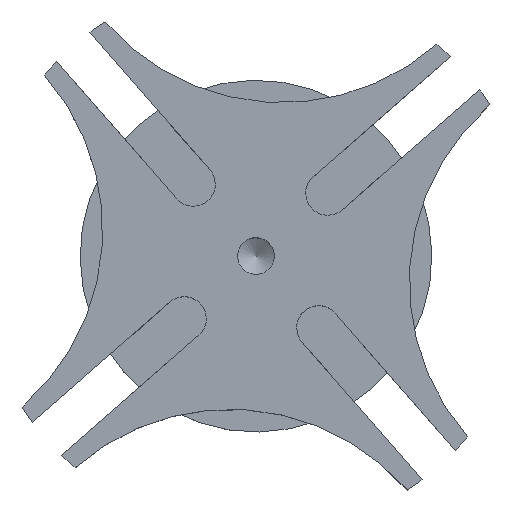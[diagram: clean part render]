
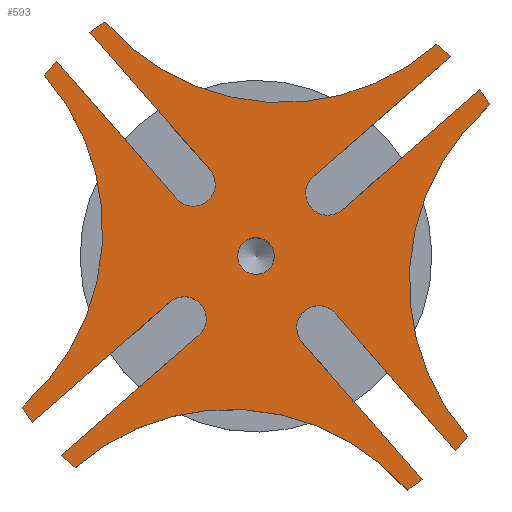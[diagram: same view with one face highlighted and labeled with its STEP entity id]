
A CAD part, top view. The second image highlights one B-rep face of the part: STEP entity #593.
In plain terms, the highlighted planar face has unit normal (0, 0, 1).
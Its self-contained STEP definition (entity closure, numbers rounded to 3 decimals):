
#35=CARTESIAN_POINT('',(20.807,-15.962,38.5));
#36=VERTEX_POINT('',#35);
#37=CARTESIAN_POINT('',(-1.841,-14.447,38.5));
#38=VERTEX_POINT('',#37);
#39=CARTESIAN_POINT('',(8.73,-26.457,38.5));
#40=DIRECTION('',(0.755,0.656,0.));
#41=DIRECTION('',(0.,0.,1.));
#42=AXIS2_PLACEMENT_3D('',#39,#41,#40);
#43=CIRCLE('',#42,16.);
#44=EDGE_CURVE('',#36,#38,#43,.T.);
#77=CARTESIAN_POINT('',(-5.462,-10.307,38.5));
#78=VERTEX_POINT('',#77);
#79=CARTESIAN_POINT('',(-3.947,12.341,38.5));
#80=VERTEX_POINT('',#79);
#81=CARTESIAN_POINT('',(-15.957,1.77,38.5));
#82=DIRECTION('',(0.656,-0.755,0.));
#83=DIRECTION('',(0.,0.,1.));
#84=AXIS2_PLACEMENT_3D('',#81,#83,#82);
#85=CIRCLE('',#84,16.);
#86=EDGE_CURVE('',#78,#80,#85,.T.);
#119=CARTESIAN_POINT('',(0.193,15.962,38.5));
#120=VERTEX_POINT('',#119);
#121=CARTESIAN_POINT('',(22.841,14.447,38.5));
#122=VERTEX_POINT('',#121);
#123=CARTESIAN_POINT('',(12.27,26.457,38.5));
#124=DIRECTION('',(-0.755,-0.656,0.));
#125=DIRECTION('',(0.,0.,1.));
#126=AXIS2_PLACEMENT_3D('',#123,#125,#124);
#127=CIRCLE('',#126,16.);
#128=EDGE_CURVE('',#120,#122,#127,.T.);
#161=CARTESIAN_POINT('',(26.462,10.307,38.5));
#162=VERTEX_POINT('',#161);
#163=CARTESIAN_POINT('',(24.947,-12.341,38.5));
#164=VERTEX_POINT('',#163);
#165=CARTESIAN_POINT('',(36.957,-1.77,38.5));
#166=DIRECTION('',(-0.656,0.755,0.));
#167=DIRECTION('',(0.,0.,1.));
#168=AXIS2_PLACEMENT_3D('',#165,#167,#166);
#169=CIRCLE('',#168,16.);
#170=EDGE_CURVE('',#162,#164,#169,.T.);
#212=CARTESIAN_POINT('',(21.84,-15.245,38.5));
#213=VERTEX_POINT('',#212);
#220=CARTESIAN_POINT('',(10.5,0.,38.5));
#221=DIRECTION('',(0.597,-0.802,0.));
#222=DIRECTION('',(0.,0.,-1.));
#223=AXIS2_PLACEMENT_3D('',#220,#222,#221);
#224=CIRCLE('',#223,19.);
#225=EDGE_CURVE('',#213,#36,#224,.T.);
#236=CARTESIAN_POINT('',(24.099,-13.27,38.5));
#237=VERTEX_POINT('',#236);
#238=CARTESIAN_POINT('',(10.5,0.,38.5));
#239=DIRECTION('',(0.76,-0.65,0.));
#240=DIRECTION('',(0.,0.,-1.));
#241=AXIS2_PLACEMENT_3D('',#238,#240,#239);
#242=CIRCLE('',#241,19.);
#243=EDGE_CURVE('',#164,#237,#242,.T.);
#278=CARTESIAN_POINT('',(-4.745,-11.34,38.5));
#279=VERTEX_POINT('',#278);
#286=CARTESIAN_POINT('',(10.5,0.,38.5));
#287=DIRECTION('',(-0.802,-0.597,0.));
#288=DIRECTION('',(0.,0.,-1.));
#289=AXIS2_PLACEMENT_3D('',#286,#288,#287);
#290=CIRCLE('',#289,19.);
#291=EDGE_CURVE('',#279,#78,#290,.T.);
#302=CARTESIAN_POINT('',(-2.77,-13.599,38.5));
#303=VERTEX_POINT('',#302);
#304=CARTESIAN_POINT('',(10.5,0.,38.5));
#305=DIRECTION('',(-0.65,-0.76,0.));
#306=DIRECTION('',(0.,0.,-1.));
#307=AXIS2_PLACEMENT_3D('',#304,#306,#305);
#308=CIRCLE('',#307,19.);
#309=EDGE_CURVE('',#38,#303,#308,.T.);
#344=CARTESIAN_POINT('',(-0.84,15.245,38.5));
#345=VERTEX_POINT('',#344);
#352=CARTESIAN_POINT('',(10.5,0.,38.5));
#353=DIRECTION('',(-0.597,0.802,0.));
#354=DIRECTION('',(0.,0.,-1.));
#355=AXIS2_PLACEMENT_3D('',#352,#354,#353);
#356=CIRCLE('',#355,19.);
#357=EDGE_CURVE('',#345,#120,#356,.T.);
#368=CARTESIAN_POINT('',(-3.099,13.27,38.5));
#369=VERTEX_POINT('',#368);
#370=CARTESIAN_POINT('',(10.5,0.,38.5));
#371=DIRECTION('',(-0.76,0.65,0.));
#372=DIRECTION('',(0.,0.,-1.));
#373=AXIS2_PLACEMENT_3D('',#370,#372,#371);
#374=CIRCLE('',#373,19.);
#375=EDGE_CURVE('',#80,#369,#374,.T.);
#410=CARTESIAN_POINT('',(25.745,11.34,38.5));
#411=VERTEX_POINT('',#410);
#418=CARTESIAN_POINT('',(10.5,0.,38.5));
#419=DIRECTION('',(0.802,0.597,0.));
#420=DIRECTION('',(0.,0.,-1.));
#421=AXIS2_PLACEMENT_3D('',#418,#420,#419);
#422=CIRCLE('',#421,19.);
#423=EDGE_CURVE('',#411,#162,#422,.T.);
#434=CARTESIAN_POINT('',(23.77,13.599,38.5));
#435=VERTEX_POINT('',#434);
#436=CARTESIAN_POINT('',(10.5,0.,38.5));
#437=DIRECTION('',(0.65,0.76,0.));
#438=DIRECTION('',(0.,0.,-1.));
#439=AXIS2_PLACEMENT_3D('',#436,#438,#437);
#440=CIRCLE('',#439,19.);
#441=EDGE_CURVE('',#122,#435,#440,.T.);
#462=CARTESIAN_POINT('',(10.5,0.,38.5));
#463=DIRECTION('',(0.658,-0.753,0.));
#464=DIRECTION('',(-0.,0.,1.));
#465=AXIS2_PLACEMENT_3D('',#462,#464,#463);
#466=PLANE('',#465);
#467=CARTESIAN_POINT('',(4.62,-3.15,38.5));
#468=VERTEX_POINT('',#467);
#469=CARTESIAN_POINT('',(6.595,-5.408,38.5));
#470=VERTEX_POINT('',#469);
#471=CARTESIAN_POINT('',(5.607,-4.279,38.5));
#472=DIRECTION('',(-0.658,0.753,0.));
#473=DIRECTION('',(0.,-0.,-1.));
#474=AXIS2_PLACEMENT_3D('',#471,#473,#472);
#475=CIRCLE('',#474,1.5);
#476=EDGE_CURVE('',#468,#470,#475,.T.);
#477=ORIENTED_EDGE('E41',*,*,#476,.T.);
#478=CARTESIAN_POINT('',(6.595,-5.408,38.5));
#479=DIRECTION('',(-0.753,-0.658,0.));
#480=VECTOR('',#479,12.441);
#481=LINE('',#478,#480);
#482=EDGE_CURVE('',#470,#303,#481,.T.);
#483=ORIENTED_EDGE('E42',*,*,#482,.T.);
#484=ORIENTED_EDGE('E42',*,*,#309,.F.);
#485=ORIENTED_EDGE('E42',*,*,#44,.F.);
#486=ORIENTED_EDGE('E42',*,*,#225,.F.);
#487=CARTESIAN_POINT('',(13.65,-5.88,38.5));
#488=VERTEX_POINT('',#487);
#489=CARTESIAN_POINT('',(21.84,-15.245,38.5));
#490=DIRECTION('',(-0.658,0.753,0.));
#491=VECTOR('',#490,12.441);
#492=LINE('',#489,#491);
#493=EDGE_CURVE('',#213,#488,#492,.T.);
#494=ORIENTED_EDGE('E43',*,*,#493,.T.);
#495=CARTESIAN_POINT('',(15.908,-3.905,38.5));
#496=VERTEX_POINT('',#495);
#497=CARTESIAN_POINT('',(14.779,-4.893,38.5));
#498=DIRECTION('',(-0.753,-0.658,0.));
#499=DIRECTION('',(0.,0.,-1.));
#500=AXIS2_PLACEMENT_3D('',#497,#499,#498);
#501=CIRCLE('',#500,1.5);
#502=EDGE_CURVE('',#488,#496,#501,.T.);
#503=ORIENTED_EDGE('E44',*,*,#502,.T.);
#504=CARTESIAN_POINT('',(15.908,-3.905,38.5));
#505=DIRECTION('',(0.658,-0.753,0.));
#506=VECTOR('',#505,12.441);
#507=LINE('',#504,#506);
#508=EDGE_CURVE('',#496,#237,#507,.T.);
#509=ORIENTED_EDGE('E45',*,*,#508,.T.);
#510=ORIENTED_EDGE('E45',*,*,#243,.F.);
#511=ORIENTED_EDGE('E45',*,*,#170,.F.);
#512=ORIENTED_EDGE('E45',*,*,#423,.F.);
#513=CARTESIAN_POINT('',(16.38,3.15,38.5));
#514=VERTEX_POINT('',#513);
#515=CARTESIAN_POINT('',(25.745,11.34,38.5));
#516=DIRECTION('',(-0.753,-0.658,0.));
#517=VECTOR('',#516,12.441);
#518=LINE('',#515,#517);
#519=EDGE_CURVE('',#411,#514,#518,.T.);
#520=ORIENTED_EDGE('E46',*,*,#519,.T.);
#521=CARTESIAN_POINT('',(14.405,5.408,38.5));
#522=VERTEX_POINT('',#521);
#523=CARTESIAN_POINT('',(15.393,4.279,38.5));
#524=DIRECTION('',(0.658,-0.753,0.));
#525=DIRECTION('',(0.,0.,-1.));
#526=AXIS2_PLACEMENT_3D('',#523,#525,#524);
#527=CIRCLE('',#526,1.5);
#528=EDGE_CURVE('',#514,#522,#527,.T.);
#529=ORIENTED_EDGE('E47',*,*,#528,.T.);
#530=CARTESIAN_POINT('',(14.405,5.408,38.5));
#531=DIRECTION('',(0.753,0.658,0.));
#532=VECTOR('',#531,12.441);
#533=LINE('',#530,#532);
#534=EDGE_CURVE('',#522,#435,#533,.T.);
#535=ORIENTED_EDGE('E48',*,*,#534,.T.);
#536=ORIENTED_EDGE('E48',*,*,#441,.F.);
#537=ORIENTED_EDGE('E48',*,*,#128,.F.);
#538=ORIENTED_EDGE('E48',*,*,#357,.F.);
#539=CARTESIAN_POINT('',(7.35,5.88,38.5));
#540=VERTEX_POINT('',#539);
#541=CARTESIAN_POINT('',(-0.84,15.245,38.5));
#542=DIRECTION('',(0.658,-0.753,0.));
#543=VECTOR('',#542,12.441);
#544=LINE('',#541,#543);
#545=EDGE_CURVE('',#345,#540,#544,.T.);
#546=ORIENTED_EDGE('E49',*,*,#545,.T.);
#547=CARTESIAN_POINT('',(5.092,3.905,38.5));
#548=VERTEX_POINT('',#547);
#549=CARTESIAN_POINT('',(6.221,4.893,38.5));
#550=DIRECTION('',(0.753,0.658,0.));
#551=DIRECTION('',(-0.,0.,-1.));
#552=AXIS2_PLACEMENT_3D('',#549,#551,#550);
#553=CIRCLE('',#552,1.5);
#554=EDGE_CURVE('',#540,#548,#553,.T.);
#555=ORIENTED_EDGE('E50',*,*,#554,.T.);
#556=CARTESIAN_POINT('',(5.092,3.905,38.5));
#557=DIRECTION('',(-0.658,0.753,0.));
#558=VECTOR('',#557,12.441);
#559=LINE('',#556,#558);
#560=EDGE_CURVE('',#548,#369,#559,.T.);
#561=ORIENTED_EDGE('E51',*,*,#560,.T.);
#562=ORIENTED_EDGE('E51',*,*,#375,.F.);
#563=ORIENTED_EDGE('E51',*,*,#86,.F.);
#564=ORIENTED_EDGE('E51',*,*,#291,.F.);
#565=CARTESIAN_POINT('',(-4.745,-11.34,38.5));
#566=DIRECTION('',(0.753,0.658,0.));
#567=VECTOR('',#566,12.441);
#568=LINE('',#565,#567);
#569=EDGE_CURVE('',#279,#468,#568,.T.);
#570=ORIENTED_EDGE('E52',*,*,#569,.T.);
#571=EDGE_LOOP('',(#477,#483,#484,#485,#486,#494,#503,#509,#510,#511,#512,#520,#529,#535,#536,#537,#538,#546,#555,#561,#562,#563,#564,#570));
#572=FACE_OUTER_BOUND('',#571,.T.);
#573=CARTESIAN_POINT('',(9.677,0.941,38.5));
#574=VERTEX_POINT('',#573);
#575=CARTESIAN_POINT('',(11.323,-0.941,38.5));
#576=VERTEX_POINT('',#575);
#577=CARTESIAN_POINT('',(10.5,0.,38.5));
#578=DIRECTION('',(-0.658,0.753,0.));
#579=DIRECTION('',(0.,-0.,-1.));
#580=AXIS2_PLACEMENT_3D('',#577,#579,#578);
#581=CIRCLE('',#580,1.25);
#582=EDGE_CURVE('',#574,#576,#581,.T.);
#583=ORIENTED_EDGE('E53',*,*,#582,.T.);
#584=CARTESIAN_POINT('',(10.5,0.,38.5));
#585=DIRECTION('',(0.658,-0.753,0.));
#586=DIRECTION('',(-0.,0.,-1.));
#587=AXIS2_PLACEMENT_3D('',#584,#586,#585);
#588=CIRCLE('',#587,1.25);
#589=EDGE_CURVE('',#576,#574,#588,.T.);
#590=ORIENTED_EDGE('E140',*,*,#589,.T.);
#591=EDGE_LOOP('',(#583,#590));
#592=FACE_BOUND('',#591,.T.);
#593=ADVANCED_FACE('F13',(#572,#592),#466,.T.);
